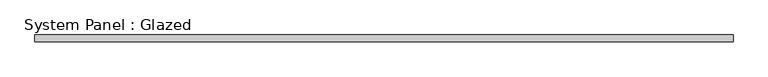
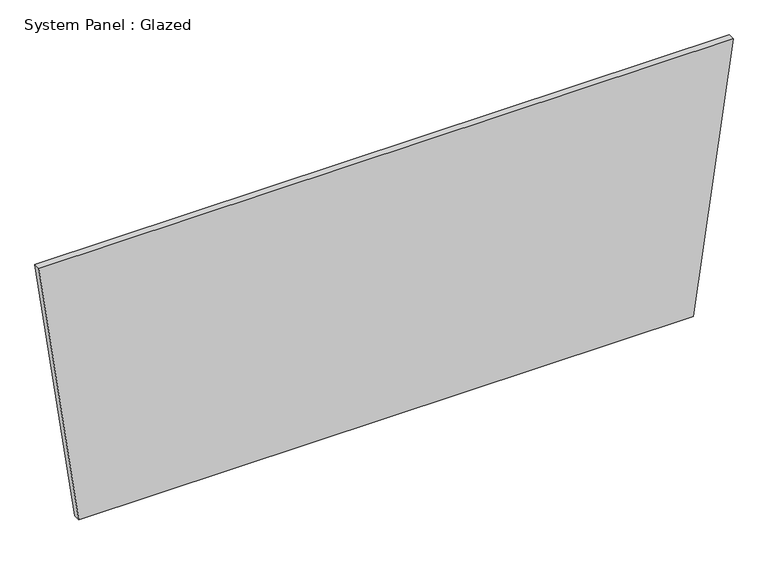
"""IFC4 building model written with IfcOpenShell, lengths in millimetres: plate geometry, System Panel : Glazed."""

from ifc_helpers import new_model, si_unit, frame, origin, place, context, project, spatial, polyline, outline, extrude, source, transform, mapped, element, save


def system_panel_glazed_ca67373d(model_context):
    return source(origin(), model_context, "Body", "SweptSolid", [
        extrude(outline(polyline([(0.0, -1159.0626267), (0.0, 1159.0626267), (1056.1146796, 1309.6747893), (1056.1146796, -1309.6747893), (0.0, -1159.0626267)])), frame((0.0, -44.45, 0.0), z_axis=(0.0, 1.0, 0.0), x_axis=(0.0, 0.0, 1.0)), (0.0, 0.0, 1.0), 25.4),
    ])


if __name__ == "__main__":
    model = new_model("IFC4")
    model_context = context("Model", 3, world=origin())
    ifc_project = project(units=[si_unit("LENGTHUNIT", "METRE", prefix="MILLI")], contexts=[model_context])
    site = spatial("IfcSite", under=ifc_project)
    building = spatial("IfcBuilding", under=site)
    placement = place(None, origin())
    system_panel_glazed_shape = system_panel_glazed_ca67373d(model_context)
    element("IfcPlate", 1, ObjectType="System Panel : Glazed", at=placement, inside=building, context=model_context, shape_type="MappedRepresentation", body=[
        mapped(system_panel_glazed_shape, transform((0.0, 0.0, 0.0), x_axis=(1.0, 0.0, 0.0), y_axis=(0.0, 1.0, 0.0), z_axis=(0.0, 0.0, 1.0))),
    ])
    save(model, "model.ifc")
